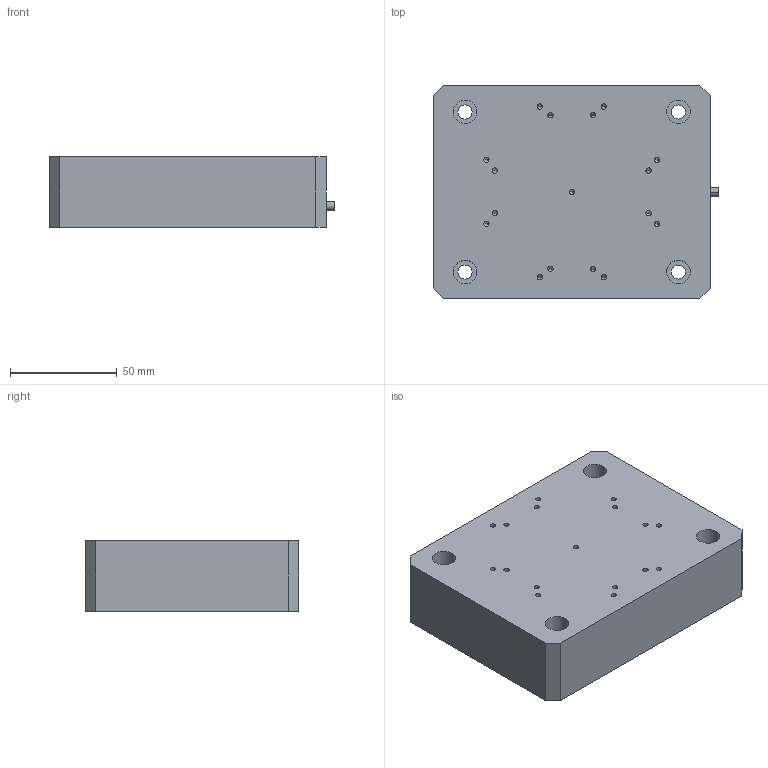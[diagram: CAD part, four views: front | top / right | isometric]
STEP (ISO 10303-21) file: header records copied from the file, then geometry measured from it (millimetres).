
FILE_DESCRIPTION (( 'STEP AP214' ), '1' );
FILE_NAME ('23003需求评估三维外形尺寸图-2023.08.02.STEP', '2023-08-02T03:02:36', ( 'User' ), ( 'china' ), 'SwSTEP 2.0', 'SolidWorks 2016', '' );
FILE_SCHEMA (( 'AUTOMOTIVE_DESIGN' ));
Length unit declared in the file: millimetre
Products named in the file (1): 23003需求评估三维外形尺寸图-2023.08.02
Bounding box: 134 x 100 x 33 mm (x, y, z)
Volume: 417460.2 mm3; surface area: 45186.7 mm2
Topology: 1 solids, 1 shells, 101 faces, 248 edges, 137 vertices
Faces by surface type: cylinder 52, cone 34, plane 15
Entity records: 3160 total; most frequent: DIRECTION 522, CARTESIAN_POINT 453, ORIENTED_EDGE 428, EDGE_CURVE 214, AXIS2_PLACEMENT_3D 206, VERTEX_POINT 137, EDGE_LOOP 131, VECTOR 110
